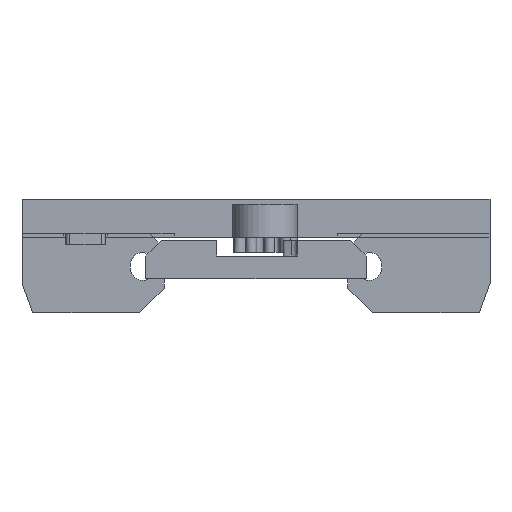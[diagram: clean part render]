
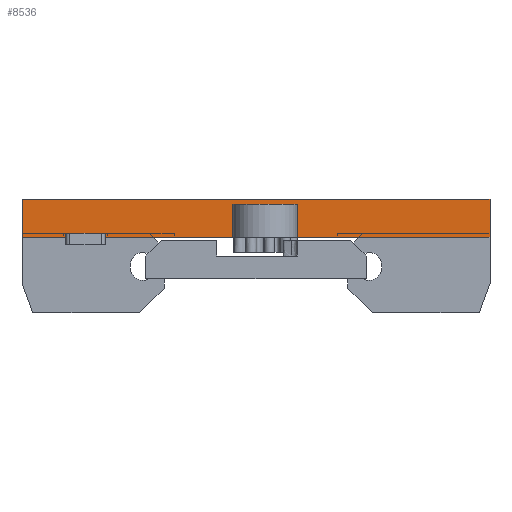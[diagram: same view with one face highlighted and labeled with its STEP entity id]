
A CAD part, left-side view. The second image highlights one B-rep face of the part: STEP entity #8536.
In plain terms, the highlighted planar face has unit normal (-1, 0, 0).
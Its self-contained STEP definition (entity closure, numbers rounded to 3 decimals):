
#433=PLANE('',#8848);
#868=FACE_OUTER_BOUND('',#1428,.T.);
#1428=EDGE_LOOP('',(#7142,#7143,#7144,#7145,#7146,#7147,#7148,#7149));
#2383=LINE('',#41226,#3001);
#2399=LINE('',#41259,#3017);
#2407=LINE('',#41275,#3025);
#2408=LINE('',#41277,#3026);
#2409=LINE('',#41279,#3027);
#2410=LINE('',#41280,#3028);
#2411=LINE('',#41281,#3029);
#2412=LINE('',#41282,#3030);
#3001=VECTOR('',#9649,10.);
#3017=VECTOR('',#9669,10.);
#3025=VECTOR('',#9679,10.);
#3026=VECTOR('',#9680,10.);
#3027=VECTOR('',#9681,10.);
#3028=VECTOR('',#9682,10.);
#3029=VECTOR('',#9683,10.);
#3030=VECTOR('',#9684,10.);
#3923=VERTEX_POINT('',#41223);
#3924=VERTEX_POINT('',#41225);
#3938=VERTEX_POINT('',#41256);
#3939=VERTEX_POINT('',#41258);
#3945=VERTEX_POINT('',#41273);
#3946=VERTEX_POINT('',#41274);
#3947=VERTEX_POINT('',#41276);
#3948=VERTEX_POINT('',#41278);
#5035=EDGE_CURVE('',#3924,#3923,#2383,.T.);
#5051=EDGE_CURVE('',#3938,#3939,#2399,.T.);
#5059=EDGE_CURVE('',#3945,#3946,#2407,.T.);
#5060=EDGE_CURVE('',#3946,#3947,#2408,.T.);
#5061=EDGE_CURVE('',#3947,#3948,#2409,.T.);
#5062=EDGE_CURVE('',#3948,#3924,#2410,.T.);
#5063=EDGE_CURVE('',#3939,#3923,#2411,.T.);
#5064=EDGE_CURVE('',#3938,#3945,#2412,.T.);
#7142=ORIENTED_EDGE('',*,*,#5059,.T.);
#7143=ORIENTED_EDGE('',*,*,#5060,.T.);
#7144=ORIENTED_EDGE('',*,*,#5061,.T.);
#7145=ORIENTED_EDGE('',*,*,#5062,.T.);
#7146=ORIENTED_EDGE('',*,*,#5035,.T.);
#7147=ORIENTED_EDGE('',*,*,#5063,.F.);
#7148=ORIENTED_EDGE('',*,*,#5051,.F.);
#7149=ORIENTED_EDGE('',*,*,#5064,.T.);
#8536=ADVANCED_FACE('',(#868),#433,.T.);
#8848=AXIS2_PLACEMENT_3D('',#41272,#9677,#9678);
#9649=DIRECTION('',(0.,0.,1.));
#9669=DIRECTION('',(0.,0.,1.));
#9677=DIRECTION('center_axis',(-1.,0.,0.));
#9678=DIRECTION('ref_axis',(0.,1.,0.));
#9679=DIRECTION('',(0.,0.,1.));
#9680=DIRECTION('',(0.,-1.,0.));
#9681=DIRECTION('',(0.,0.,-1.));
#9682=DIRECTION('',(0.,-1.,0.));
#9683=DIRECTION('',(0.,-1.,0.));
#9684=DIRECTION('',(0.,-1.,0.));
#41223=CARTESIAN_POINT('',(458.253,478.121,11.));
#41225=CARTESIAN_POINT('',(458.253,478.121,1.));
#41226=CARTESIAN_POINT('',(458.253,478.121,1.));
#41256=CARTESIAN_POINT('',(458.253,601.454,1.));
#41258=CARTESIAN_POINT('',(458.253,601.454,11.));
#41259=CARTESIAN_POINT('',(458.253,601.454,1.));
#41272=CARTESIAN_POINT('Origin',(458.253,601.454,1.));
#41273=CARTESIAN_POINT('',(458.253,589.954,1.));
#41274=CARTESIAN_POINT('',(458.253,589.954,2.));
#41275=CARTESIAN_POINT('',(458.253,589.954,1.));
#41276=CARTESIAN_POINT('',(458.253,579.454,2.));
#41277=CARTESIAN_POINT('',(458.253,589.954,2.));
#41278=CARTESIAN_POINT('',(458.253,579.454,1.));
#41279=CARTESIAN_POINT('',(458.253,579.454,2.));
#41280=CARTESIAN_POINT('',(458.253,579.454,1.));
#41281=CARTESIAN_POINT('',(458.253,601.454,11.));
#41282=CARTESIAN_POINT('',(458.253,601.454,1.));
